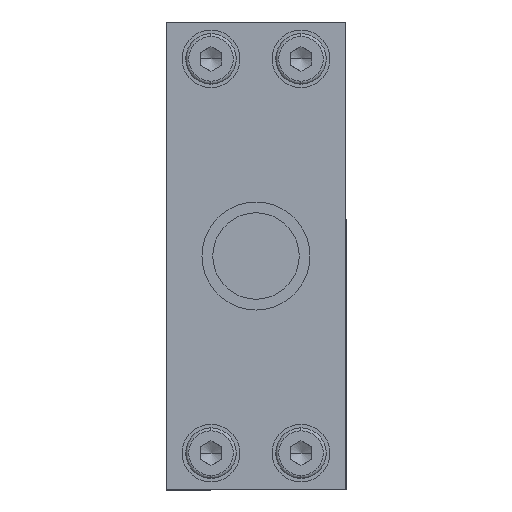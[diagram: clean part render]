
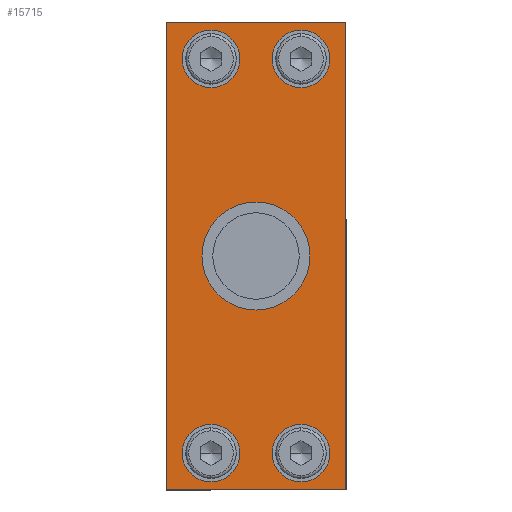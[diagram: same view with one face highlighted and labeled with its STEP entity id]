
A CAD part, left-side view. The second image highlights one B-rep face of the part: STEP entity #15715.
In plain terms, the highlighted planar face has unit normal (-1, 0, 0).
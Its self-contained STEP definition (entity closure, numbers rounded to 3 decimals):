
#227=CARTESIAN_POINT('',(-15.0,-12.2,-23.941));
#228=VERTEX_POINT('',#227);
#244=CARTESIAN_POINT('',(-15.0,-27.2,-23.941));
#245=VERTEX_POINT('',#244);
#252=CARTESIAN_POINT('',(-15.,-19.7,-23.941));
#253=DIRECTION('',(1.0,0.0,0.0));
#254=DIRECTION('',(0.0,1.0,0.0));
#255=AXIS2_PLACEMENT_3D('',#252,#253,#254);
#256=CIRCLE('',#255,7.5);
#257=EDGE_CURVE('',#228,#245,#256,.T.);
#479=CARTESIAN_POINT('',(-15.,-17.45,3.434));
#480=VERTEX_POINT('',#479);
#496=CARTESIAN_POINT('',(-15.,-9.45,3.434));
#497=VERTEX_POINT('',#496);
#504=CARTESIAN_POINT('',(-15.,-13.45,3.434));
#505=DIRECTION('',(1.0,0.0,0.0));
#506=DIRECTION('',(0.0,-1.0,0.0));
#507=AXIS2_PLACEMENT_3D('',#504,#505,#506);
#508=CIRCLE('',#507,4.0);
#509=EDGE_CURVE('',#480,#497,#508,.T.);
#521=CARTESIAN_POINT('',(-15.,-17.45,-51.316));
#522=VERTEX_POINT('',#521);
#538=CARTESIAN_POINT('',(-15.,-9.45,-51.316));
#539=VERTEX_POINT('',#538);
#546=CARTESIAN_POINT('',(-15.,-13.45,-51.316));
#547=DIRECTION('',(1.0,0.0,0.0));
#548=DIRECTION('',(0.0,-1.0,0.0));
#549=AXIS2_PLACEMENT_3D('',#546,#547,#548);
#550=CIRCLE('',#549,4.0);
#551=EDGE_CURVE('',#522,#539,#550,.T.);
#563=CARTESIAN_POINT('',(-15.,-29.95,-51.316));
#564=VERTEX_POINT('',#563);
#580=CARTESIAN_POINT('',(-15.,-21.95,-51.316));
#581=VERTEX_POINT('',#580);
#588=CARTESIAN_POINT('',(-15.,-25.95,-51.316));
#589=DIRECTION('',(1.0,0.0,0.0));
#590=DIRECTION('',(0.0,-1.0,0.0));
#591=AXIS2_PLACEMENT_3D('',#588,#589,#590);
#592=CIRCLE('',#591,4.0);
#593=EDGE_CURVE('',#564,#581,#592,.T.);
#605=CARTESIAN_POINT('',(-15.,-29.95,3.434));
#606=VERTEX_POINT('',#605);
#622=CARTESIAN_POINT('',(-15.,-21.95,3.434));
#623=VERTEX_POINT('',#622);
#630=CARTESIAN_POINT('',(-15.,-25.95,3.434));
#631=DIRECTION('',(1.0,0.0,0.0));
#632=DIRECTION('',(0.0,-1.0,0.0));
#633=AXIS2_PLACEMENT_3D('',#630,#631,#632);
#634=CIRCLE('',#633,4.0);
#635=EDGE_CURVE('',#606,#623,#634,.T.);
#14390=CARTESIAN_POINT('',(-15.,-25.95,3.434));
#14391=DIRECTION('',(1.0,0.0,0.0));
#14392=DIRECTION('',(0.0,-1.0,0.0));
#14393=AXIS2_PLACEMENT_3D('',#14390,#14391,#14392);
#14394=CIRCLE('',#14393,4.0);
#14395=EDGE_CURVE('',#623,#606,#14394,.T.);
#14428=CARTESIAN_POINT('',(-15.,-25.95,-51.316));
#14429=DIRECTION('',(1.0,0.0,0.0));
#14430=DIRECTION('',(0.0,-1.0,0.0));
#14431=AXIS2_PLACEMENT_3D('',#14428,#14429,#14430);
#14432=CIRCLE('',#14431,4.0);
#14433=EDGE_CURVE('',#581,#564,#14432,.T.);
#14466=CARTESIAN_POINT('',(-15.,-13.45,-51.316));
#14467=DIRECTION('',(1.0,0.0,0.0));
#14468=DIRECTION('',(0.0,-1.0,0.0));
#14469=AXIS2_PLACEMENT_3D('',#14466,#14467,#14468);
#14470=CIRCLE('',#14469,4.0);
#14471=EDGE_CURVE('',#539,#522,#14470,.T.);
#14504=CARTESIAN_POINT('',(-15.,-13.45,3.434));
#14505=DIRECTION('',(1.0,0.0,0.0));
#14506=DIRECTION('',(0.0,-1.0,0.0));
#14507=AXIS2_PLACEMENT_3D('',#14504,#14505,#14506);
#14508=CIRCLE('',#14507,4.0);
#14509=EDGE_CURVE('',#497,#480,#14508,.T.);
#15370=CARTESIAN_POINT('',(-15.,-19.7,-23.941));
#15371=DIRECTION('',(1.0,0.0,0.0));
#15372=DIRECTION('',(0.0,1.0,0.0));
#15373=AXIS2_PLACEMENT_3D('',#15370,#15371,#15372);
#15374=CIRCLE('',#15373,7.5);
#15375=EDGE_CURVE('',#245,#228,#15374,.T.);
#15499=CARTESIAN_POINT('',(-15.,-7.2,-56.441));
#15500=VERTEX_POINT('',#15499);
#15507=CARTESIAN_POINT('',(-15.,-7.2,8.559));
#15508=VERTEX_POINT('',#15507);
#15509=CARTESIAN_POINT('',(-15.,-7.2,-56.441));
#15510=DIRECTION('',(0.0,0.0,1.0));
#15511=VECTOR('',#15510,65.);
#15512=LINE('',#15509,#15511);
#15513=EDGE_CURVE('',#15500,#15508,#15512,.T.);
#15559=CARTESIAN_POINT('',(-15.,-32.2,-56.441));
#15560=VERTEX_POINT('',#15559);
#15567=CARTESIAN_POINT('',(-15.,-32.2,-56.441));
#15568=DIRECTION('',(0.0,1.0,0.0));
#15569=VECTOR('',#15568,25.);
#15570=LINE('',#15567,#15569);
#15571=EDGE_CURVE('',#15560,#15500,#15570,.T.);
#15606=CARTESIAN_POINT('',(-15.,-32.2,8.559));
#15607=VERTEX_POINT('',#15606);
#15614=CARTESIAN_POINT('',(-15.,-32.2,8.559));
#15615=DIRECTION('',(0.0,0.0,-1.0));
#15616=VECTOR('',#15615,65.0);
#15617=LINE('',#15614,#15616);
#15618=EDGE_CURVE('',#15607,#15560,#15617,.T.);
#15658=CARTESIAN_POINT('',(-15.,-7.2,8.559));
#15659=DIRECTION('',(0.0,-1.0,0.0));
#15660=VECTOR('',#15659,25.);
#15661=LINE('',#15658,#15660);
#15662=EDGE_CURVE('',#15508,#15607,#15661,.T.);
#15684=CARTESIAN_POINT('',(-15.,-12.2,-71.441));
#15685=DIRECTION('',(1.0,0.0,0.0));
#15686=DIRECTION('',(0.0,0.0,-1.0));
#15687=AXIS2_PLACEMENT_3D('',#15684,#15685,#15686);
#15688=PLANE('',#15687);
#15689=ORIENTED_EDGE('',*,*,#15618,.F.);
#15690=ORIENTED_EDGE('',*,*,#15662,.F.);
#15691=ORIENTED_EDGE('',*,*,#15513,.F.);
#15692=ORIENTED_EDGE('',*,*,#15571,.F.);
#15693=EDGE_LOOP('',(#15689,#15690,#15691,#15692));
#15694=FACE_OUTER_BOUND('',#15693,.T.);
#15695=ORIENTED_EDGE('',*,*,#635,.T.);
#15696=ORIENTED_EDGE('',*,*,#14395,.T.);
#15697=EDGE_LOOP('',(#15695,#15696));
#15698=FACE_BOUND('',#15697,.T.);
#15699=ORIENTED_EDGE('',*,*,#593,.T.);
#15700=ORIENTED_EDGE('',*,*,#14433,.T.);
#15701=EDGE_LOOP('',(#15699,#15700));
#15702=FACE_BOUND('',#15701,.T.);
#15703=ORIENTED_EDGE('',*,*,#551,.T.);
#15704=ORIENTED_EDGE('',*,*,#14471,.T.);
#15705=EDGE_LOOP('',(#15703,#15704));
#15706=FACE_BOUND('',#15705,.T.);
#15707=ORIENTED_EDGE('',*,*,#509,.T.);
#15708=ORIENTED_EDGE('',*,*,#14509,.T.);
#15709=EDGE_LOOP('',(#15707,#15708));
#15710=FACE_BOUND('',#15709,.T.);
#15711=ORIENTED_EDGE('',*,*,#15375,.T.);
#15712=ORIENTED_EDGE('',*,*,#257,.T.);
#15713=EDGE_LOOP('',(#15711,#15712));
#15714=FACE_BOUND('',#15713,.T.);
#15715=ADVANCED_FACE('',(#15694,#15698,#15702,#15706,#15710,#15714),#15688,.F.);
